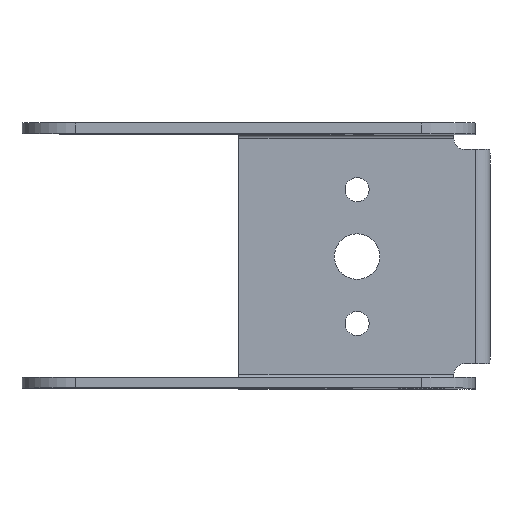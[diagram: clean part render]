
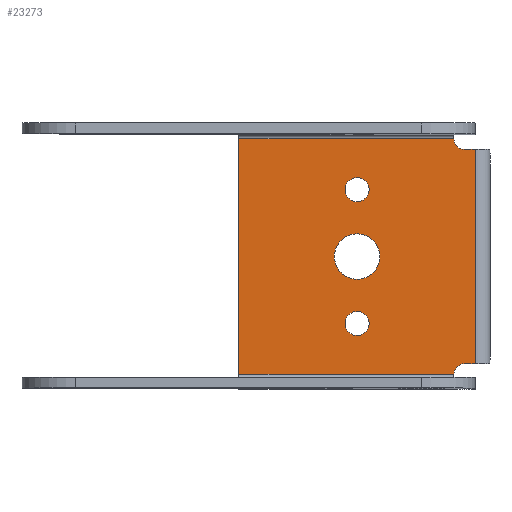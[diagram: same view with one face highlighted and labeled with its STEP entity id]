
A CAD part, top view. The second image highlights one B-rep face of the part: STEP entity #23273.
In plain terms, the highlighted planar face has unit normal (0, 0, 1).
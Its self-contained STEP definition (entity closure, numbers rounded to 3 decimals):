
#496 = VECTOR ( 'NONE', #71972, 1000. ) ;
#726 = VECTOR ( 'NONE', #13373, 1000. ) ;
#1420 = CARTESIAN_POINT ( 'NONE',  ( 62.575, 34.5, 0. ) ) ;
#1462 = DIRECTION ( 'NONE',  ( 0., 0., 1. ) ) ;
#1821 = DIRECTION ( 'NONE',  ( 0., 0., 1. ) ) ;
#2007 = ORIENTED_EDGE ( 'NONE', *, *, #52508, .T. ) ;
#2105 = ORIENTED_EDGE ( 'NONE', *, *, #4681, .F. ) ;
#2493 = CARTESIAN_POINT ( 'NONE',  ( 62.575, 9.5, 0. ) ) ;
#2954 = VERTEX_POINT ( 'NONE', #27022 ) ;
#3694 = DIRECTION ( 'NONE',  ( 1., 0., 0. ) ) ;
#3798 = VECTOR ( 'NONE', #40833, 1000. ) ;
#4282 = EDGE_CURVE ( 'NONE', #43499, #8256, #6822, .T. ) ;
#4681 = EDGE_CURVE ( 'NONE', #29338, #65127, #50681, .T. ) ;
#6822 = CIRCLE ( 'NONE', #67946, 2. ) ;
#6899 = FACE_BOUND ( 'NONE', #38921, .T. ) ;
#7081 = DIRECTION ( 'NONE',  ( 1., 0., 0. ) ) ;
#7219 = DIRECTION ( 'NONE',  ( 1., 0., 0. ) ) ;
#7601 = VERTEX_POINT ( 'NONE', #31709 ) ;
#7835 = EDGE_CURVE ( 'NONE', #10638, #46971, #7973, .T. ) ;
#7973 = CIRCLE ( 'NONE', #39338, 2.25 ) ;
#8129 = DIRECTION ( 'NONE',  ( -1., 0., 0. ) ) ;
#8256 = VERTEX_POINT ( 'NONE', #33544 ) ;
#8654 = FACE_BOUND ( 'NONE', #26341, .T. ) ;
#9628 = VECTOR ( 'NONE', #3694, 1000. ) ;
#9851 = EDGE_CURVE ( 'NONE', #65246, #57614, #17465, .T. ) ;
#10155 = LINE ( 'NONE', #38774, #496 ) ;
#10638 = VERTEX_POINT ( 'NONE', #20967 ) ;
#11041 = CIRCLE ( 'NONE', #39149, 4.25 ) ;
#12870 = EDGE_LOOP ( 'NONE', ( #46125, #2105 ) ) ;
#13373 = DIRECTION ( 'NONE',  ( 0., -1., 0. ) ) ;
#15141 = CARTESIAN_POINT ( 'NONE',  ( 62.575, 34.5, 0. ) ) ;
#15538 = VERTEX_POINT ( 'NONE', #50064 ) ;
#17465 = LINE ( 'NONE', #32664, #45558 ) ;
#18840 = CARTESIAN_POINT ( 'NONE',  ( 80.65, 0., 0. ) ) ;
#19263 = CARTESIAN_POINT ( 'NONE',  ( 0., 0., 0. ) ) ;
#20385 = EDGE_CURVE ( 'NONE', #8256, #65246, #39484, .T. ) ;
#20514 = CIRCLE ( 'NONE', #22668, 2.25 ) ;
#20793 = DIRECTION ( 'NONE',  ( 1., 0., 0. ) ) ;
#20967 = CARTESIAN_POINT ( 'NONE',  ( 60.325, 9.5, 0. ) ) ;
#21815 = FACE_BOUND ( 'NONE', #12870, .T. ) ;
#22668 = AXIS2_PLACEMENT_3D ( 'NONE', #15141, #54423, #20793 ) ;
#22827 = AXIS2_PLACEMENT_3D ( 'NONE', #2493, #41710, #8129 ) ;
#23273 = ADVANCED_FACE ( 'NONE', ( #6899, #21815, #8654, #64855 ), #35973, .F. ) ;
#24254 = CARTESIAN_POINT ( 'NONE',  ( 64.825, 34.5, 0. ) ) ;
#24556 = ORIENTED_EDGE ( 'NONE', *, *, #58069, .F. ) ;
#24894 = DIRECTION ( 'NONE',  ( -1., 0., 0. ) ) ;
#25415 = DIRECTION ( 'NONE',  ( 0., 0., -1. ) ) ;
#26234 = CARTESIAN_POINT ( 'NONE',  ( 82.65, 42., 0. ) ) ;
#26341 = EDGE_LOOP ( 'NONE', ( #24556, #65011 ) ) ;
#27022 = CARTESIAN_POINT ( 'NONE',  ( 40.5, 44., 0. ) ) ;
#27109 = DIRECTION ( 'NONE',  ( 0., 0., 1. ) ) ;
#27412 = VECTOR ( 'NONE', #7219, 1000. ) ;
#28765 = ORIENTED_EDGE ( 'NONE', *, *, #20385, .T. ) ;
#28943 = EDGE_LOOP ( 'NONE', ( #37625, #67216, #36271, #37734, #62794, #2007, #70235, #28765 ) ) ;
#29294 = EDGE_CURVE ( 'NONE', #15538, #2954, #46815, .T. ) ;
#29338 = VERTEX_POINT ( 'NONE', #58478 ) ;
#30450 = CARTESIAN_POINT ( 'NONE',  ( 82.65, 0., 0. ) ) ;
#30583 = LINE ( 'NONE', #63695, #726 ) ;
#31709 = CARTESIAN_POINT ( 'NONE',  ( 66.825, 22., 0. ) ) ;
#31897 = CARTESIAN_POINT ( 'NONE',  ( 84.65, 2., 0. ) ) ;
#32664 = CARTESIAN_POINT ( 'NONE',  ( 84.65, 2., 0. ) ) ;
#33544 = CARTESIAN_POINT ( 'NONE',  ( 82.65, 2., 0. ) ) ;
#34959 = ORIENTED_EDGE ( 'NONE', *, *, #63409, .F. ) ;
#35087 = CARTESIAN_POINT ( 'NONE',  ( 62.575, 9.5, 0. ) ) ;
#35441 = CARTESIAN_POINT ( 'NONE',  ( 62.575, 22., 0. ) ) ;
#35973 = PLANE ( 'NONE',  #67008 ) ;
#36107 = DIRECTION ( 'NONE',  ( -1., 0., 0. ) ) ;
#36271 = ORIENTED_EDGE ( 'NONE', *, *, #57106, .T. ) ;
#37625 = ORIENTED_EDGE ( 'NONE', *, *, #9851, .T. ) ;
#37734 = ORIENTED_EDGE ( 'NONE', *, *, #29294, .T. ) ;
#38002 = EDGE_CURVE ( 'NONE', #2954, #49752, #30583, .T. ) ;
#38229 = EDGE_CURVE ( 'NONE', #66498, #7601, #53403, .T. ) ;
#38310 = DIRECTION ( 'NONE',  ( 0., 1., 0. ) ) ;
#38774 = CARTESIAN_POINT ( 'NONE',  ( 0., 42., 0. ) ) ;
#38921 = EDGE_LOOP ( 'NONE', ( #34959, #50387 ) ) ;
#39149 = AXIS2_PLACEMENT_3D ( 'NONE', #35441, #1821, #41063 ) ;
#39338 = AXIS2_PLACEMENT_3D ( 'NONE', #35087, #1462, #40704 ) ;
#39484 = LINE ( 'NONE', #42951, #9628 ) ;
#39656 = CIRCLE ( 'NONE', #22827, 2.25 ) ;
#40545 = LINE ( 'NONE', #51853, #27412 ) ;
#40657 = DIRECTION ( 'NONE',  ( 0., 0., 1. ) ) ;
#40704 = DIRECTION ( 'NONE',  ( -1., 0., 0. ) ) ;
#40833 = DIRECTION ( 'NONE',  ( -1., 0., 0. ) ) ;
#41009 = EDGE_CURVE ( 'NONE', #57614, #49484, #10155, .T. ) ;
#41063 = DIRECTION ( 'NONE',  ( 1., 0., 0. ) ) ;
#41145 = CARTESIAN_POINT ( 'NONE',  ( 40.5, 0., 0. ) ) ;
#41710 = DIRECTION ( 'NONE',  ( 0., 0., 1. ) ) ;
#41932 = AXIS2_PLACEMENT_3D ( 'NONE', #60707, #27109, #66350 ) ;
#42951 = CARTESIAN_POINT ( 'NONE',  ( 0., 2., 0. ) ) ;
#43499 = VERTEX_POINT ( 'NONE', #18840 ) ;
#45558 = VECTOR ( 'NONE', #38310, 1000. ) ;
#46125 = ORIENTED_EDGE ( 'NONE', *, *, #72051, .F. ) ;
#46815 = LINE ( 'NONE', #68855, #3798 ) ;
#46971 = VERTEX_POINT ( 'NONE', #63511 ) ;
#49484 = VERTEX_POINT ( 'NONE', #26234 ) ;
#49752 = VERTEX_POINT ( 'NONE', #41145 ) ;
#50064 = CARTESIAN_POINT ( 'NONE',  ( 80.65, 44., 0. ) ) ;
#50387 = ORIENTED_EDGE ( 'NONE', *, *, #7835, .F. ) ;
#50681 = CIRCLE ( 'NONE', #55239, 2.25 ) ;
#51853 = CARTESIAN_POINT ( 'NONE',  ( 0., 0., 0. ) ) ;
#52508 = EDGE_CURVE ( 'NONE', #49752, #43499, #40545, .T. ) ;
#53403 = CIRCLE ( 'NONE', #41932, 4.25 ) ;
#53423 = CARTESIAN_POINT ( 'NONE',  ( 84.65, 42., 0. ) ) ;
#54423 = DIRECTION ( 'NONE',  ( 0., 0., 1. ) ) ;
#55239 = AXIS2_PLACEMENT_3D ( 'NONE', #1420, #40657, #7081 ) ;
#57106 = EDGE_CURVE ( 'NONE', #49484, #15538, #72651, .T. ) ;
#57614 = VERTEX_POINT ( 'NONE', #53423 ) ;
#58069 = EDGE_CURVE ( 'NONE', #7601, #66498, #11041, .T. ) ;
#58478 = CARTESIAN_POINT ( 'NONE',  ( 60.325, 34.5, 0. ) ) ;
#58500 = DIRECTION ( 'NONE',  ( 0., 0., -1. ) ) ;
#59012 = CARTESIAN_POINT ( 'NONE',  ( 82.65, 44., 0. ) ) ;
#60707 = CARTESIAN_POINT ( 'NONE',  ( 62.575, 22., 0. ) ) ;
#60759 = AXIS2_PLACEMENT_3D ( 'NONE', #59012, #25415, #64690 ) ;
#62794 = ORIENTED_EDGE ( 'NONE', *, *, #38002, .T. ) ;
#63409 = EDGE_CURVE ( 'NONE', #46971, #10638, #39656, .T. ) ;
#63511 = CARTESIAN_POINT ( 'NONE',  ( 64.825, 9.5, 0. ) ) ;
#63695 = CARTESIAN_POINT ( 'NONE',  ( 40.5, 0., 0. ) ) ;
#64690 = DIRECTION ( 'NONE',  ( -1., 0., 0. ) ) ;
#64855 = FACE_OUTER_BOUND ( 'NONE', #28943, .T. ) ;
#65011 = ORIENTED_EDGE ( 'NONE', *, *, #38229, .F. ) ;
#65127 = VERTEX_POINT ( 'NONE', #24254 ) ;
#65246 = VERTEX_POINT ( 'NONE', #31897 ) ;
#66350 = DIRECTION ( 'NONE',  ( 1., 0., 0. ) ) ;
#66498 = VERTEX_POINT ( 'NONE', #70220 ) ;
#67008 = AXIS2_PLACEMENT_3D ( 'NONE', #19263, #58500, #24894 ) ;
#67216 = ORIENTED_EDGE ( 'NONE', *, *, #41009, .T. ) ;
#67946 = AXIS2_PLACEMENT_3D ( 'NONE', #30450, #69744, #36107 ) ;
#68855 = CARTESIAN_POINT ( 'NONE',  ( 0., 44., 0. ) ) ;
#69744 = DIRECTION ( 'NONE',  ( 0., 0., -1. ) ) ;
#70220 = CARTESIAN_POINT ( 'NONE',  ( 58.325, 22., 0. ) ) ;
#70235 = ORIENTED_EDGE ( 'NONE', *, *, #4282, .T. ) ;
#71972 = DIRECTION ( 'NONE',  ( -1., 0., 0. ) ) ;
#72051 = EDGE_CURVE ( 'NONE', #65127, #29338, #20514, .T. ) ;
#72651 = CIRCLE ( 'NONE', #60759, 2. ) ;
